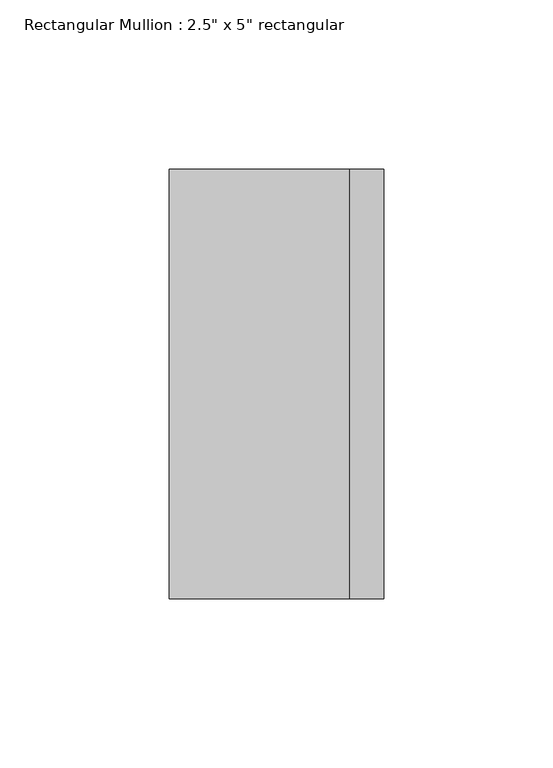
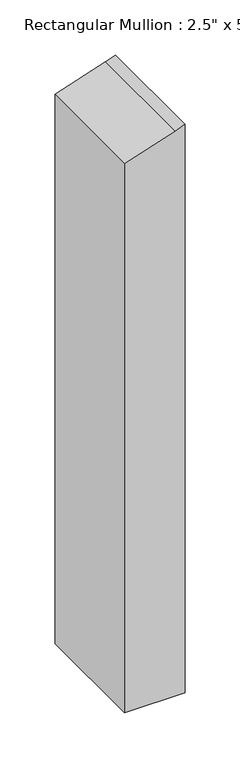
"""IFC4 building model written with IfcOpenShell, lengths in millimetres: member geometry."""

from ifc_helpers import new_model, si_unit, frame, origin, place, context, project, spatial, polyline, outline, extrude, source, transform, mapped, element, save


def member_833d9b54(model_context):
    return source(origin(), model_context, "Body", "SweptSolid", [
        extrude(outline(polyline([(-55.702694, 31.75), (-59.7423071, 21.6166764), (-77.1326286, -31.75), (-686.2305428, -31.75), (-686.2305428, 31.75), (-55.702694, 31.75)])), frame((0.0, -63.5, 0.0), z_axis=(0.0, 1.0, 0.0), x_axis=(0.0, 0.0, 1.0)), (0.0, 0.0, 1.0), 127.0),
    ])


if __name__ == "__main__":
    model = new_model("IFC4")
    model_context = context("Model", 3, world=origin())
    ifc_project = project(units=[si_unit("LENGTHUNIT", "METRE", prefix="MILLI")], contexts=[model_context])
    site = spatial("IfcSite", under=ifc_project)
    building = spatial("IfcBuilding", under=site)
    placement = place(None, origin())
    member_shape = member_833d9b54(model_context)
    element("IfcMember", 1, ObjectType="Rectangular Mullion : 2.5\" x 5\" rectangular", at=placement, inside=building, context=model_context, shape_type="MappedRepresentation", body=[
        mapped(member_shape, transform((0.0, 0.0, 0.0), x_axis=(1.0, 0.0, 0.0), y_axis=(0.0, 1.0, 0.0), z_axis=(0.0, 0.0, 1.0))),
    ])
    save(model, "model.ifc")
